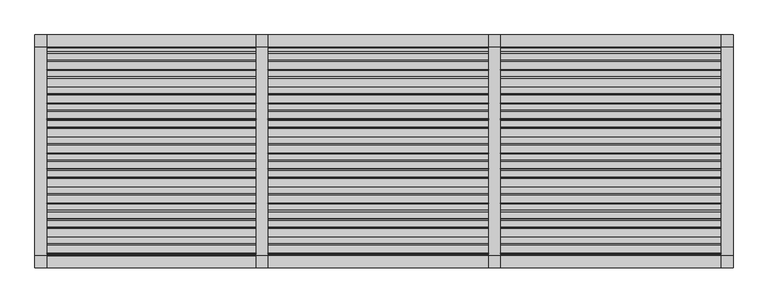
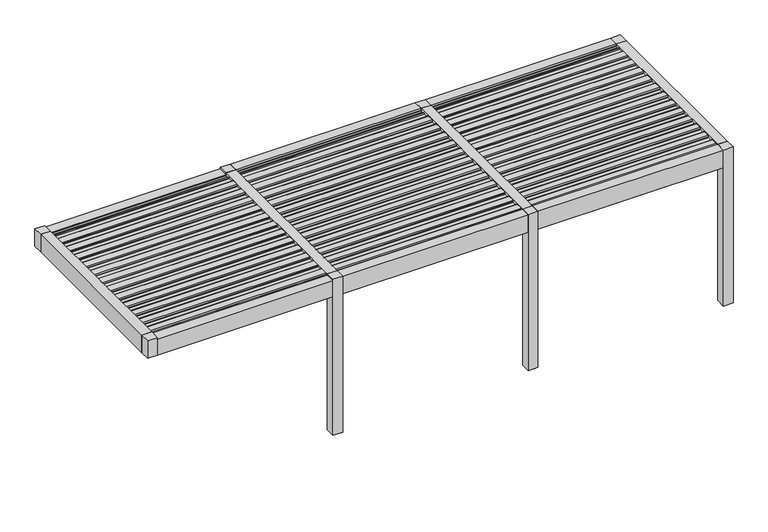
"""IFC4 building model written with IfcOpenShell, lengths in millimetres: proxy geometry, Renson_Amani_Patio_Cover : Renson_Amani_Patio_Cover."""

from ifc_helpers import new_model, si_unit, point, frame, frame_2d, origin, origin_with_axes, place, context, project, spatial, polyline, circle_curve, trimmed, segment, composite_curve, outline, extrude, source, transform, mapped, element, save


def generic_models_89963777(model_context):
    return source(origin(), model_context, "Body", "SweptSolid", [
        extrude(outline(composite_curve([segment(polyline([(-1073.7289238, 2483.35), (-1076.1490335, 2511.01198), (-1104.984284, 2512.3970364), (-1101.5469529, 2531.8911096), (-991.549838, 2526.6075693)]), True, "CONTINUOUS"), segment(trimmed(circle_curve(frame_2d((-992.26951, 2511.6248435)), 15.0), [point((-991.549838, 2526.6075693))], [point((-977.4973937, 2514.2295662))], False, "CARTESIAN"), True, "CONTINUOUS"), segment(polyline([(-977.4973937, 2514.2295662), (-974.1067023, 2495.0), (-886.3709263, 2495.0), (-883.3594689, 2512.0788237), (-868.0824984, 2511.3450182), (-865.6332517, 2483.35), (-1073.7289238, 2483.35)]), True, "CONTINUOUS")], self_intersect=False)), frame((4500.0, 0.0, 0.0), z_axis=(1.0, 0.0, 0.0), x_axis=(0.0, 1.0, 0.0)), (0.0, 0.0, 1.0), 2850.0),
        extrude(outline(composite_curve([segment(polyline([(-858.7132078, 2483.35), (-861.1333174, 2511.01198), (-889.9685679, 2512.3970364), (-886.5312368, 2531.8911096), (-776.534122, 2526.6075693)]), True, "CONTINUOUS"), segment(trimmed(circle_curve(frame_2d((-777.2537939, 2511.6248435)), 15.0), [point((-776.534122, 2526.6075693))], [point((-762.4816776, 2514.2295662))], False, "CARTESIAN"), True, "CONTINUOUS"), segment(polyline([(-762.4816776, 2514.2295662), (-759.0909863, 2495.0), (-671.3552102, 2495.0), (-668.3437528, 2512.0788237), (-653.0667824, 2511.3450182), (-650.6175356, 2483.35), (-858.7132078, 2483.35)]), True, "CONTINUOUS")], self_intersect=False)), frame((4500.0, 0.0, 0.0), z_axis=(1.0, 0.0, 0.0), x_axis=(0.0, 1.0, 0.0)), (0.0, 0.0, 1.0), 2850.0),
        extrude(outline(composite_curve([segment(polyline([(-643.6974917, 2483.35), (-646.1176014, 2511.01198), (-674.9528519, 2512.3970364), (-671.5155208, 2531.8911096), (-561.5184059, 2526.6075693)]), True, "CONTINUOUS"), segment(trimmed(circle_curve(frame_2d((-562.2380779, 2511.6248435)), 15.0), [point((-561.5184059, 2526.6075693))], [point((-547.4659616, 2514.2295662))], False, "CARTESIAN"), True, "CONTINUOUS"), segment(polyline([(-547.4659616, 2514.2295662), (-544.0752702, 2495.0), (-456.3394942, 2495.0), (-453.3280368, 2512.0788237), (-438.0510663, 2511.3450182), (-435.6018196, 2483.35), (-643.6974917, 2483.35)]), True, "CONTINUOUS")], self_intersect=False)), frame((4500.0, 0.0, 0.0), z_axis=(1.0, 0.0, 0.0), x_axis=(0.0, 1.0, 0.0)), (0.0, 0.0, 1.0), 2850.0),
        extrude(outline(composite_curve([segment(polyline([(-428.6817757, 2483.35), (-431.1018854, 2511.01198), (-459.9371358, 2512.3970364), (-456.4998047, 2531.8911096), (-346.5026899, 2526.6075693)]), True, "CONTINUOUS"), segment(trimmed(circle_curve(frame_2d((-347.2223618, 2511.6248435)), 15.0), [point((-346.5026899, 2526.6075693))], [point((-332.4502455, 2514.2295662))], False, "CARTESIAN"), True, "CONTINUOUS"), segment(polyline([(-332.4502455, 2514.2295662), (-329.0595542, 2495.0), (-241.3237782, 2495.0), (-238.3123207, 2512.0788237), (-223.0353503, 2511.3450182), (-220.5861035, 2483.35), (-428.6817757, 2483.35)]), True, "CONTINUOUS")], self_intersect=False)), frame((4500.0, 0.0, 0.0), z_axis=(1.0, 0.0, 0.0), x_axis=(0.0, 1.0, 0.0)), (0.0, 0.0, 1.0), 2850.0),
        extrude(outline(composite_curve([segment(polyline([(-213.6660597, 2483.35), (-216.0861693, 2511.01198), (-244.9214198, 2512.3970364), (-241.4840887, 2531.8911096), (-131.4869738, 2526.6075693)]), True, "CONTINUOUS"), segment(trimmed(circle_curve(frame_2d((-132.2066458, 2511.6248435)), 15.0), [point((-131.4869738, 2526.6075693))], [point((-117.4345295, 2514.2295662))], False, "CARTESIAN"), True, "CONTINUOUS"), segment(polyline([(-117.4345295, 2514.2295662), (-114.0438381, 2495.0), (-26.3080621, 2495.0), (-23.2966047, 2512.0788237), (-8.0196342, 2511.3450182), (-5.5703875, 2483.35), (-213.6660597, 2483.35)]), True, "CONTINUOUS")], self_intersect=False)), frame((4500.0, 0.0, 0.0), z_axis=(1.0, 0.0, 0.0), x_axis=(0.0, 1.0, 0.0)), (0.0, 0.0, 1.0), 2850.0),
        extrude(outline(composite_curve([segment(polyline([(1.3496564, 2483.35), (-1.0704533, 2511.01198), (-29.9057037, 2512.3970364), (-26.4683726, 2531.8911096), (83.5287422, 2526.6075693)]), True, "CONTINUOUS"), segment(trimmed(circle_curve(frame_2d((82.8090703, 2511.6248435)), 15.0), [point((83.5287422, 2526.6075693))], [point((97.5811866, 2514.2295662))], False, "CARTESIAN"), True, "CONTINUOUS"), segment(polyline([(97.5811866, 2514.2295662), (100.9718779, 2495.0), (188.7076539, 2495.0), (191.7191114, 2512.0788237), (206.9960818, 2511.3450182), (209.4453286, 2483.35), (1.3496564, 2483.35)]), True, "CONTINUOUS")], self_intersect=False)), frame((4500.0, 0.0, 0.0), z_axis=(1.0, 0.0, 0.0), x_axis=(0.0, 1.0, 0.0)), (0.0, 0.0, 1.0), 2850.0),
        extrude(outline(composite_curve([segment(polyline([(216.3653724, 2483.35), (213.9452628, 2511.01198), (185.1100123, 2512.3970364), (188.5473434, 2531.8911096), (298.5444582, 2526.6075693)]), True, "CONTINUOUS"), segment(trimmed(circle_curve(frame_2d((297.8247863, 2511.6248435)), 15.0), [point((298.5444582, 2526.6075693))], [point((312.5969026, 2514.2295662))], False, "CARTESIAN"), True, "CONTINUOUS"), segment(polyline([(312.5969026, 2514.2295662), (315.987594, 2495.0), (403.72337, 2495.0), (406.7348274, 2512.0788237), (422.0117979, 2511.3450182), (424.4610446, 2483.35), (216.3653724, 2483.35)]), True, "CONTINUOUS")], self_intersect=False)), frame((4500.0, 0.0, 0.0), z_axis=(1.0, 0.0, 0.0), x_axis=(0.0, 1.0, 0.0)), (0.0, 0.0, 1.0), 2850.0),
        extrude(outline(composite_curve([segment(polyline([(431.3810885, 2483.35), (428.9609788, 2511.01198), (400.1257284, 2512.3970364), (403.5630594, 2531.8911096), (513.5601743, 2526.6075693)]), True, "CONTINUOUS"), segment(trimmed(circle_curve(frame_2d((512.8405024, 2511.6248435)), 15.0), [point((513.5601743, 2526.6075693))], [point((527.6126187, 2514.2295662))], False, "CARTESIAN"), True, "CONTINUOUS"), segment(polyline([(527.6126187, 2514.2295662), (531.00331, 2495.0), (618.739086, 2495.0), (621.7505434, 2512.0788237), (637.0275139, 2511.3450182), (639.4767606, 2483.35), (431.3810885, 2483.35)]), True, "CONTINUOUS")], self_intersect=False)), frame((4500.0, 0.0, 0.0), z_axis=(1.0, 0.0, 0.0), x_axis=(0.0, 1.0, 0.0)), (0.0, 0.0, 1.0), 2850.0),
        extrude(outline(composite_curve([segment(polyline([(646.3968045, 2483.35), (643.9766949, 2511.01198), (615.1414444, 2512.3970364), (618.5787755, 2531.8911096), (728.5758903, 2526.6075693)]), True, "CONTINUOUS"), segment(trimmed(circle_curve(frame_2d((727.8562184, 2511.6248435)), 15.0), [point((728.5758903, 2526.6075693))], [point((742.6283347, 2514.2295662))], False, "CARTESIAN"), True, "CONTINUOUS"), segment(polyline([(742.6283347, 2514.2295662), (746.019026, 2495.0), (833.7548021, 2495.0), (836.7662595, 2512.0788237), (852.04323, 2511.3450182), (854.4924767, 2483.35), (646.3968045, 2483.35)]), True, "CONTINUOUS")], self_intersect=False)), frame((4500.0, 0.0, 0.0), z_axis=(1.0, 0.0, 0.0), x_axis=(0.0, 1.0, 0.0)), (0.0, 0.0, 1.0), 2850.0),
        extrude(outline(composite_curve([segment(polyline([(861.4125206, 2483.35), (858.9924109, 2511.01198), (830.1571605, 2512.3970364), (833.5944915, 2531.8911096), (943.5916064, 2526.6075693)]), True, "CONTINUOUS"), segment(trimmed(circle_curve(frame_2d((942.8719345, 2511.6248435)), 15.0), [point((943.5916064, 2526.6075693))], [point((957.6440508, 2514.2295662))], False, "CARTESIAN"), True, "CONTINUOUS"), segment(polyline([(957.6440508, 2514.2295662), (961.0347421, 2495.0), (1048.7705181, 2495.0), (1051.7819755, 2512.0788237), (1067.058946, 2511.3450182), (1069.5081927, 2483.35), (861.4125206, 2483.35)]), True, "CONTINUOUS")], self_intersect=False)), frame((4500.0, 0.0, 0.0), z_axis=(1.0, 0.0, 0.0), x_axis=(0.0, 1.0, 0.0)), (0.0, 0.0, 1.0), 2850.0),
        extrude(outline(composite_curve([segment(polyline([(-1288.7446399, 2483.35), (-1291.1647495, 2511.01198), (-1320.0, 2512.3970364), (-1316.5626689, 2531.8911096), (-1206.5655541, 2526.6075693)]), True, "CONTINUOUS"), segment(trimmed(circle_curve(frame_2d((-1207.285226, 2511.6248435)), 15.0), [point((-1206.5655541, 2526.6075693))], [point((-1192.5131097, 2514.2295662))], False, "CARTESIAN"), True, "CONTINUOUS"), segment(polyline([(-1192.5131097, 2514.2295662), (-1189.1224184, 2495.0), (-1101.3866423, 2495.0), (-1098.3751849, 2512.0788237), (-1083.0982144, 2511.3450182), (-1080.6489677, 2483.35), (-1288.7446399, 2483.35)]), True, "CONTINUOUS")], self_intersect=False)), frame((4500.0, 0.0, 0.0), z_axis=(1.0, 0.0, 0.0), x_axis=(0.0, 1.0, 0.0)), (0.0, 0.0, 1.0), 2850.0),
        extrude(outline(composite_curve([segment(polyline([(1076.4282366, 2483.35), (1074.008127, 2511.01198), (1045.1728765, 2512.3970364), (1048.6102076, 2531.8911096), (1158.6073224, 2526.6075693)]), True, "CONTINUOUS"), segment(trimmed(circle_curve(frame_2d((1157.8876505, 2511.6248435)), 15.0), [point((1158.6073224, 2526.6075693))], [point((1172.6597668, 2514.2295662))], False, "CARTESIAN"), True, "CONTINUOUS"), segment(polyline([(1172.6597668, 2514.2295662), (1176.0504581, 2495.0), (1263.7862342, 2495.0), (1266.7976916, 2512.0788237), (1282.0746621, 2511.3450182), (1284.5239088, 2483.35), (1076.4282366, 2483.35)]), True, "CONTINUOUS")], self_intersect=False)), frame((4500.0, 0.0, 0.0), z_axis=(1.0, 0.0, 0.0), x_axis=(0.0, 1.0, 0.0)), (0.0, 0.0, 1.0), 2850.0),
        extrude(outline(composite_curve([segment(polyline([(-1073.7289238, 2483.35), (-1076.1490335, 2511.01198), (-1104.984284, 2512.3970364), (-1101.5469529, 2531.8911096), (-991.549838, 2526.6075693)]), True, "CONTINUOUS"), segment(trimmed(circle_curve(frame_2d((-992.26951, 2511.6248435)), 15.0), [point((-991.549838, 2526.6075693))], [point((-977.4973937, 2514.2295662))], False, "CARTESIAN"), True, "CONTINUOUS"), segment(polyline([(-977.4973937, 2514.2295662), (-974.1067023, 2495.0), (-886.3709263, 2495.0), (-883.3594689, 2512.0788237), (-868.0824984, 2511.3450182), (-865.6332517, 2483.35), (-1073.7289238, 2483.35)]), True, "CONTINUOUS")], self_intersect=False)), frame((1500.0, 0.0, 0.0), z_axis=(1.0, 0.0, 0.0), x_axis=(0.0, 1.0, 0.0)), (0.0, 0.0, 1.0), 2850.0),
        extrude(outline(composite_curve([segment(polyline([(-858.7132078, 2483.35), (-861.1333174, 2511.01198), (-889.9685679, 2512.3970364), (-886.5312368, 2531.8911096), (-776.534122, 2526.6075693)]), True, "CONTINUOUS"), segment(trimmed(circle_curve(frame_2d((-777.2537939, 2511.6248435)), 15.0), [point((-776.534122, 2526.6075693))], [point((-762.4816776, 2514.2295662))], False, "CARTESIAN"), True, "CONTINUOUS"), segment(polyline([(-762.4816776, 2514.2295662), (-759.0909863, 2495.0), (-671.3552102, 2495.0), (-668.3437528, 2512.0788237), (-653.0667824, 2511.3450182), (-650.6175356, 2483.35), (-858.7132078, 2483.35)]), True, "CONTINUOUS")], self_intersect=False)), frame((1500.0, 0.0, 0.0), z_axis=(1.0, 0.0, 0.0), x_axis=(0.0, 1.0, 0.0)), (0.0, 0.0, 1.0), 2850.0),
        extrude(outline(composite_curve([segment(polyline([(-643.6974917, 2483.35), (-646.1176014, 2511.01198), (-674.9528519, 2512.3970364), (-671.5155208, 2531.8911096), (-561.5184059, 2526.6075693)]), True, "CONTINUOUS"), segment(trimmed(circle_curve(frame_2d((-562.2380779, 2511.6248435)), 15.0), [point((-561.5184059, 2526.6075693))], [point((-547.4659616, 2514.2295662))], False, "CARTESIAN"), True, "CONTINUOUS"), segment(polyline([(-547.4659616, 2514.2295662), (-544.0752702, 2495.0), (-456.3394942, 2495.0), (-453.3280368, 2512.0788237), (-438.0510663, 2511.3450182), (-435.6018196, 2483.35), (-643.6974917, 2483.35)]), True, "CONTINUOUS")], self_intersect=False)), frame((1500.0, 0.0, 0.0), z_axis=(1.0, 0.0, 0.0), x_axis=(0.0, 1.0, 0.0)), (0.0, 0.0, 1.0), 2850.0),
        extrude(outline(composite_curve([segment(polyline([(-428.6817757, 2483.35), (-431.1018854, 2511.01198), (-459.9371358, 2512.3970364), (-456.4998047, 2531.8911096), (-346.5026899, 2526.6075693)]), True, "CONTINUOUS"), segment(trimmed(circle_curve(frame_2d((-347.2223618, 2511.6248435)), 15.0), [point((-346.5026899, 2526.6075693))], [point((-332.4502455, 2514.2295662))], False, "CARTESIAN"), True, "CONTINUOUS"), segment(polyline([(-332.4502455, 2514.2295662), (-329.0595542, 2495.0), (-241.3237782, 2495.0), (-238.3123207, 2512.0788237), (-223.0353503, 2511.3450182), (-220.5861035, 2483.35), (-428.6817757, 2483.35)]), True, "CONTINUOUS")], self_intersect=False)), frame((1500.0, 0.0, 0.0), z_axis=(1.0, 0.0, 0.0), x_axis=(0.0, 1.0, 0.0)), (0.0, 0.0, 1.0), 2850.0),
        extrude(outline(composite_curve([segment(polyline([(-213.6660597, 2483.35), (-216.0861693, 2511.01198), (-244.9214198, 2512.3970364), (-241.4840887, 2531.8911096), (-131.4869738, 2526.6075693)]), True, "CONTINUOUS"), segment(trimmed(circle_curve(frame_2d((-132.2066458, 2511.6248435)), 15.0), [point((-131.4869738, 2526.6075693))], [point((-117.4345295, 2514.2295662))], False, "CARTESIAN"), True, "CONTINUOUS"), segment(polyline([(-117.4345295, 2514.2295662), (-114.0438381, 2495.0), (-26.3080621, 2495.0), (-23.2966047, 2512.0788237), (-8.0196342, 2511.3450182), (-5.5703875, 2483.35), (-213.6660597, 2483.35)]), True, "CONTINUOUS")], self_intersect=False)), frame((1500.0, 0.0, 0.0), z_axis=(1.0, 0.0, 0.0), x_axis=(0.0, 1.0, 0.0)), (0.0, 0.0, 1.0), 2850.0),
        extrude(outline(composite_curve([segment(polyline([(1.3496564, 2483.35), (-1.0704533, 2511.01198), (-29.9057037, 2512.3970364), (-26.4683726, 2531.8911096), (83.5287422, 2526.6075693)]), True, "CONTINUOUS"), segment(trimmed(circle_curve(frame_2d((82.8090703, 2511.6248435)), 15.0), [point((83.5287422, 2526.6075693))], [point((97.5811866, 2514.2295662))], False, "CARTESIAN"), True, "CONTINUOUS"), segment(polyline([(97.5811866, 2514.2295662), (100.9718779, 2495.0), (188.7076539, 2495.0), (191.7191114, 2512.0788237), (206.9960818, 2511.3450182), (209.4453286, 2483.35), (1.3496564, 2483.35)]), True, "CONTINUOUS")], self_intersect=False)), frame((1500.0, 0.0, 0.0), z_axis=(1.0, 0.0, 0.0), x_axis=(0.0, 1.0, 0.0)), (0.0, 0.0, 1.0), 2850.0),
        extrude(outline(composite_curve([segment(polyline([(216.3653724, 2483.35), (213.9452628, 2511.01198), (185.1100123, 2512.3970364), (188.5473434, 2531.8911096), (298.5444582, 2526.6075693)]), True, "CONTINUOUS"), segment(trimmed(circle_curve(frame_2d((297.8247863, 2511.6248435)), 15.0), [point((298.5444582, 2526.6075693))], [point((312.5969026, 2514.2295662))], False, "CARTESIAN"), True, "CONTINUOUS"), segment(polyline([(312.5969026, 2514.2295662), (315.987594, 2495.0), (403.72337, 2495.0), (406.7348274, 2512.0788237), (422.0117979, 2511.3450182), (424.4610446, 2483.35), (216.3653724, 2483.35)]), True, "CONTINUOUS")], self_intersect=False)), frame((1500.0, 0.0, 0.0), z_axis=(1.0, 0.0, 0.0), x_axis=(0.0, 1.0, 0.0)), (0.0, 0.0, 1.0), 2850.0),
        extrude(outline(composite_curve([segment(polyline([(431.3810885, 2483.35), (428.9609788, 2511.01198), (400.1257284, 2512.3970364), (403.5630594, 2531.8911096), (513.5601743, 2526.6075693)]), True, "CONTINUOUS"), segment(trimmed(circle_curve(frame_2d((512.8405024, 2511.6248435)), 15.0), [point((513.5601743, 2526.6075693))], [point((527.6126187, 2514.2295662))], False, "CARTESIAN"), True, "CONTINUOUS"), segment(polyline([(527.6126187, 2514.2295662), (531.00331, 2495.0), (618.739086, 2495.0), (621.7505434, 2512.0788237), (637.0275139, 2511.3450182), (639.4767606, 2483.35), (431.3810885, 2483.35)]), True, "CONTINUOUS")], self_intersect=False)), frame((1500.0, 0.0, 0.0), z_axis=(1.0, 0.0, 0.0), x_axis=(0.0, 1.0, 0.0)), (0.0, 0.0, 1.0), 2850.0),
        extrude(outline(composite_curve([segment(polyline([(646.3968045, 2483.35), (643.9766949, 2511.01198), (615.1414444, 2512.3970364), (618.5787755, 2531.8911096), (728.5758903, 2526.6075693)]), True, "CONTINUOUS"), segment(trimmed(circle_curve(frame_2d((727.8562184, 2511.6248435)), 15.0), [point((728.5758903, 2526.6075693))], [point((742.6283347, 2514.2295662))], False, "CARTESIAN"), True, "CONTINUOUS"), segment(polyline([(742.6283347, 2514.2295662), (746.019026, 2495.0), (833.7548021, 2495.0), (836.7662595, 2512.0788237), (852.04323, 2511.3450182), (854.4924767, 2483.35), (646.3968045, 2483.35)]), True, "CONTINUOUS")], self_intersect=False)), frame((1500.0, 0.0, 0.0), z_axis=(1.0, 0.0, 0.0), x_axis=(0.0, 1.0, 0.0)), (0.0, 0.0, 1.0), 2850.0),
        extrude(outline(composite_curve([segment(polyline([(861.4125206, 2483.35), (858.9924109, 2511.01198), (830.1571605, 2512.3970364), (833.5944915, 2531.8911096), (943.5916064, 2526.6075693)]), True, "CONTINUOUS"), segment(trimmed(circle_curve(frame_2d((942.8719345, 2511.6248435)), 15.0), [point((943.5916064, 2526.6075693))], [point((957.6440508, 2514.2295662))], False, "CARTESIAN"), True, "CONTINUOUS"), segment(polyline([(957.6440508, 2514.2295662), (961.0347421, 2495.0), (1048.7705181, 2495.0), (1051.7819755, 2512.0788237), (1067.058946, 2511.3450182), (1069.5081927, 2483.35), (861.4125206, 2483.35)]), True, "CONTINUOUS")], self_intersect=False)), frame((1500.0, 0.0, 0.0), z_axis=(1.0, 0.0, 0.0), x_axis=(0.0, 1.0, 0.0)), (0.0, 0.0, 1.0), 2850.0),
        extrude(outline(composite_curve([segment(polyline([(-1288.7446399, 2483.35), (-1291.1647495, 2511.01198), (-1320.0, 2512.3970364), (-1316.5626689, 2531.8911096), (-1206.5655541, 2526.6075693)]), True, "CONTINUOUS"), segment(trimmed(circle_curve(frame_2d((-1207.285226, 2511.6248435)), 15.0), [point((-1206.5655541, 2526.6075693))], [point((-1192.5131097, 2514.2295662))], False, "CARTESIAN"), True, "CONTINUOUS"), segment(polyline([(-1192.5131097, 2514.2295662), (-1189.1224184, 2495.0), (-1101.3866423, 2495.0), (-1098.3751849, 2512.0788237), (-1083.0982144, 2511.3450182), (-1080.6489677, 2483.35), (-1288.7446399, 2483.35)]), True, "CONTINUOUS")], self_intersect=False)), frame((1500.0, 0.0, 0.0), z_axis=(1.0, 0.0, 0.0), x_axis=(0.0, 1.0, 0.0)), (0.0, 0.0, 1.0), 2850.0),
        extrude(outline(composite_curve([segment(polyline([(1076.4282366, 2483.35), (1074.008127, 2511.01198), (1045.1728765, 2512.3970364), (1048.6102076, 2531.8911096), (1158.6073224, 2526.6075693)]), True, "CONTINUOUS"), segment(trimmed(circle_curve(frame_2d((1157.8876505, 2511.6248435)), 15.0), [point((1158.6073224, 2526.6075693))], [point((1172.6597668, 2514.2295662))], False, "CARTESIAN"), True, "CONTINUOUS"), segment(polyline([(1172.6597668, 2514.2295662), (1176.0504581, 2495.0), (1263.7862342, 2495.0), (1266.7976916, 2512.0788237), (1282.0746621, 2511.3450182), (1284.5239088, 2483.35), (1076.4282366, 2483.35)]), True, "CONTINUOUS")], self_intersect=False)), frame((1500.0, 0.0, 0.0), z_axis=(1.0, 0.0, 0.0), x_axis=(0.0, 1.0, 0.0)), (0.0, 0.0, 1.0), 2850.0),
        extrude(outline(composite_curve([segment(polyline([(-1073.7289238, 2483.35), (-1076.1490335, 2511.01198), (-1104.984284, 2512.3970364), (-1101.5469529, 2531.8911096), (-991.549838, 2526.6075693)]), True, "CONTINUOUS"), segment(trimmed(circle_curve(frame_2d((-992.26951, 2511.6248435)), 15.0), [point((-991.549838, 2526.6075693))], [point((-977.4973937, 2514.2295662))], False, "CARTESIAN"), True, "CONTINUOUS"), segment(polyline([(-977.4973937, 2514.2295662), (-974.1067023, 2495.0), (-886.3709263, 2495.0), (-883.3594689, 2512.0788237), (-868.0824984, 2511.3450182), (-865.6332517, 2483.35), (-1073.7289238, 2483.35)]), True, "CONTINUOUS")], self_intersect=False)), frame((-1350.0, 0.0, 0.0), z_axis=(1.0, 0.0, 0.0), x_axis=(0.0, 1.0, 0.0)), (0.0, 0.0, 1.0), 2700.0),
        extrude(outline(composite_curve([segment(polyline([(-858.7132078, 2483.35), (-861.1333174, 2511.01198), (-889.9685679, 2512.3970364), (-886.5312368, 2531.8911096), (-776.534122, 2526.6075693)]), True, "CONTINUOUS"), segment(trimmed(circle_curve(frame_2d((-777.2537939, 2511.6248435)), 15.0), [point((-776.534122, 2526.6075693))], [point((-762.4816776, 2514.2295662))], False, "CARTESIAN"), True, "CONTINUOUS"), segment(polyline([(-762.4816776, 2514.2295662), (-759.0909863, 2495.0), (-671.3552102, 2495.0), (-668.3437528, 2512.0788237), (-653.0667824, 2511.3450182), (-650.6175356, 2483.35), (-858.7132078, 2483.35)]), True, "CONTINUOUS")], self_intersect=False)), frame((-1350.0, 0.0, 0.0), z_axis=(1.0, 0.0, 0.0), x_axis=(0.0, 1.0, 0.0)), (0.0, 0.0, 1.0), 2700.0),
        extrude(outline(composite_curve([segment(polyline([(-643.6974917, 2483.35), (-646.1176014, 2511.01198), (-674.9528519, 2512.3970364), (-671.5155208, 2531.8911096), (-561.5184059, 2526.6075693)]), True, "CONTINUOUS"), segment(trimmed(circle_curve(frame_2d((-562.2380779, 2511.6248435)), 15.0), [point((-561.5184059, 2526.6075693))], [point((-547.4659616, 2514.2295662))], False, "CARTESIAN"), True, "CONTINUOUS"), segment(polyline([(-547.4659616, 2514.2295662), (-544.0752702, 2495.0), (-456.3394942, 2495.0), (-453.3280368, 2512.0788237), (-438.0510663, 2511.3450182), (-435.6018196, 2483.35), (-643.6974917, 2483.35)]), True, "CONTINUOUS")], self_intersect=False)), frame((-1350.0, 0.0, 0.0), z_axis=(1.0, 0.0, 0.0), x_axis=(0.0, 1.0, 0.0)), (0.0, 0.0, 1.0), 2700.0),
        extrude(outline(composite_curve([segment(polyline([(-428.6817757, 2483.35), (-431.1018854, 2511.01198), (-459.9371358, 2512.3970364), (-456.4998047, 2531.8911096), (-346.5026899, 2526.6075693)]), True, "CONTINUOUS"), segment(trimmed(circle_curve(frame_2d((-347.2223618, 2511.6248435)), 15.0), [point((-346.5026899, 2526.6075693))], [point((-332.4502455, 2514.2295662))], False, "CARTESIAN"), True, "CONTINUOUS"), segment(polyline([(-332.4502455, 2514.2295662), (-329.0595542, 2495.0), (-241.3237782, 2495.0), (-238.3123207, 2512.0788237), (-223.0353503, 2511.3450182), (-220.5861035, 2483.35), (-428.6817757, 2483.35)]), True, "CONTINUOUS")], self_intersect=False)), frame((-1350.0, 0.0, 0.0), z_axis=(1.0, 0.0, 0.0), x_axis=(0.0, 1.0, 0.0)), (0.0, 0.0, 1.0), 2700.0),
        extrude(outline(composite_curve([segment(polyline([(-213.6660597, 2483.35), (-216.0861693, 2511.01198), (-244.9214198, 2512.3970364), (-241.4840887, 2531.8911096), (-131.4869738, 2526.6075693)]), True, "CONTINUOUS"), segment(trimmed(circle_curve(frame_2d((-132.2066458, 2511.6248435)), 15.0), [point((-131.4869738, 2526.6075693))], [point((-117.4345295, 2514.2295662))], False, "CARTESIAN"), True, "CONTINUOUS"), segment(polyline([(-117.4345295, 2514.2295662), (-114.0438381, 2495.0), (-26.3080621, 2495.0), (-23.2966047, 2512.0788237), (-8.0196342, 2511.3450182), (-5.5703875, 2483.35), (-213.6660597, 2483.35)]), True, "CONTINUOUS")], self_intersect=False)), frame((-1350.0, 0.0, 0.0), z_axis=(1.0, 0.0, 0.0), x_axis=(0.0, 1.0, 0.0)), (0.0, 0.0, 1.0), 2700.0),
        extrude(outline(composite_curve([segment(polyline([(1.3496564, 2483.35), (-1.0704533, 2511.01198), (-29.9057037, 2512.3970364), (-26.4683726, 2531.8911096), (83.5287422, 2526.6075693)]), True, "CONTINUOUS"), segment(trimmed(circle_curve(frame_2d((82.8090703, 2511.6248435)), 15.0), [point((83.5287422, 2526.6075693))], [point((97.5811866, 2514.2295662))], False, "CARTESIAN"), True, "CONTINUOUS"), segment(polyline([(97.5811866, 2514.2295662), (100.9718779, 2495.0), (188.7076539, 2495.0), (191.7191114, 2512.0788237), (206.9960818, 2511.3450182), (209.4453286, 2483.35), (1.3496564, 2483.35)]), True, "CONTINUOUS")], self_intersect=False)), frame((-1350.0, 0.0, 0.0), z_axis=(1.0, 0.0, 0.0), x_axis=(0.0, 1.0, 0.0)), (0.0, 0.0, 1.0), 2700.0),
        extrude(outline(composite_curve([segment(polyline([(216.3653724, 2483.35), (213.9452628, 2511.01198), (185.1100123, 2512.3970364), (188.5473434, 2531.8911096), (298.5444582, 2526.6075693)]), True, "CONTINUOUS"), segment(trimmed(circle_curve(frame_2d((297.8247863, 2511.6248435)), 15.0), [point((298.5444582, 2526.6075693))], [point((312.5969026, 2514.2295662))], False, "CARTESIAN"), True, "CONTINUOUS"), segment(polyline([(312.5969026, 2514.2295662), (315.987594, 2495.0), (403.72337, 2495.0), (406.7348274, 2512.0788237), (422.0117979, 2511.3450182), (424.4610446, 2483.35), (216.3653724, 2483.35)]), True, "CONTINUOUS")], self_intersect=False)), frame((-1350.0, 0.0, 0.0), z_axis=(1.0, 0.0, 0.0), x_axis=(0.0, 1.0, 0.0)), (0.0, 0.0, 1.0), 2700.0),
        extrude(outline(composite_curve([segment(polyline([(431.3810885, 2483.35), (428.9609788, 2511.01198), (400.1257284, 2512.3970364), (403.5630594, 2531.8911096), (513.5601743, 2526.6075693)]), True, "CONTINUOUS"), segment(trimmed(circle_curve(frame_2d((512.8405024, 2511.6248435)), 15.0), [point((513.5601743, 2526.6075693))], [point((527.6126187, 2514.2295662))], False, "CARTESIAN"), True, "CONTINUOUS"), segment(polyline([(527.6126187, 2514.2295662), (531.00331, 2495.0), (618.739086, 2495.0), (621.7505434, 2512.0788237), (637.0275139, 2511.3450182), (639.4767606, 2483.35), (431.3810885, 2483.35)]), True, "CONTINUOUS")], self_intersect=False)), frame((-1350.0, 0.0, 0.0), z_axis=(1.0, 0.0, 0.0), x_axis=(0.0, 1.0, 0.0)), (0.0, 0.0, 1.0), 2700.0),
        extrude(outline(composite_curve([segment(polyline([(646.3968045, 2483.35), (643.9766949, 2511.01198), (615.1414444, 2512.3970364), (618.5787755, 2531.8911096), (728.5758903, 2526.6075693)]), True, "CONTINUOUS"), segment(trimmed(circle_curve(frame_2d((727.8562184, 2511.6248435)), 15.0), [point((728.5758903, 2526.6075693))], [point((742.6283347, 2514.2295662))], False, "CARTESIAN"), True, "CONTINUOUS"), segment(polyline([(742.6283347, 2514.2295662), (746.019026, 2495.0), (833.7548021, 2495.0), (836.7662595, 2512.0788237), (852.04323, 2511.3450182), (854.4924767, 2483.35), (646.3968045, 2483.35)]), True, "CONTINUOUS")], self_intersect=False)), frame((-1350.0, 0.0, 0.0), z_axis=(1.0, 0.0, 0.0), x_axis=(0.0, 1.0, 0.0)), (0.0, 0.0, 1.0), 2700.0),
        extrude(outline(composite_curve([segment(polyline([(861.4125206, 2483.35), (858.9924109, 2511.01198), (830.1571605, 2512.3970364), (833.5944915, 2531.8911096), (943.5916064, 2526.6075693)]), True, "CONTINUOUS"), segment(trimmed(circle_curve(frame_2d((942.8719345, 2511.6248435)), 15.0), [point((943.5916064, 2526.6075693))], [point((957.6440508, 2514.2295662))], False, "CARTESIAN"), True, "CONTINUOUS"), segment(polyline([(957.6440508, 2514.2295662), (961.0347421, 2495.0), (1048.7705181, 2495.0), (1051.7819755, 2512.0788237), (1067.058946, 2511.3450182), (1069.5081927, 2483.35), (861.4125206, 2483.35)]), True, "CONTINUOUS")], self_intersect=False)), frame((-1350.0, 0.0, 0.0), z_axis=(1.0, 0.0, 0.0), x_axis=(0.0, 1.0, 0.0)), (0.0, 0.0, 1.0), 2700.0),
        extrude(outline(composite_curve([segment(polyline([(-1288.7446399, 2483.35), (-1291.1647495, 2511.01198), (-1320.0, 2512.3970364), (-1316.5626689, 2531.8911096), (-1206.5655541, 2526.6075693)]), True, "CONTINUOUS"), segment(trimmed(circle_curve(frame_2d((-1207.285226, 2511.6248435)), 15.0), [point((-1206.5655541, 2526.6075693))], [point((-1192.5131097, 2514.2295662))], False, "CARTESIAN"), True, "CONTINUOUS"), segment(polyline([(-1192.5131097, 2514.2295662), (-1189.1224184, 2495.0), (-1101.3866423, 2495.0), (-1098.3751849, 2512.0788237), (-1083.0982144, 2511.3450182), (-1080.6489677, 2483.35), (-1288.7446399, 2483.35)]), True, "CONTINUOUS")], self_intersect=False)), frame((-1350.0, 0.0, 0.0), z_axis=(1.0, 0.0, 0.0), x_axis=(0.0, 1.0, 0.0)), (0.0, 0.0, 1.0), 2700.0),
        extrude(outline(composite_curve([segment(polyline([(1076.4282366, 2483.35), (1074.008127, 2511.01198), (1045.1728765, 2512.3970364), (1048.6102076, 2531.8911096), (1158.6073224, 2526.6075693)]), True, "CONTINUOUS"), segment(trimmed(circle_curve(frame_2d((1157.8876505, 2511.6248435)), 15.0), [point((1158.6073224, 2526.6075693))], [point((1172.6597668, 2514.2295662))], False, "CARTESIAN"), True, "CONTINUOUS"), segment(polyline([(1172.6597668, 2514.2295662), (1176.0504581, 2495.0), (1263.7862342, 2495.0), (1266.7976916, 2512.0788237), (1282.0746621, 2511.3450182), (1284.5239088, 2483.35), (1076.4282366, 2483.35)]), True, "CONTINUOUS")], self_intersect=False)), frame((-1350.0, 0.0, 0.0), z_axis=(1.0, 0.0, 0.0), x_axis=(0.0, 1.0, 0.0)), (0.0, 0.0, 1.0), 2700.0),
        extrude(outline(polyline([(7500.0, -1350.0), (7500.0, -1500.0), (7350.0, -1500.0), (7350.0, -1350.0), (7500.0, -1350.0)])), origin_with_axes(), (0.0, 0.0, 1.0), 2535.0),
        extrude(outline(polyline([(7500.0, 1500.0), (7500.0, 1350.0), (7350.0, 1350.0), (7350.0, 1500.0), (7500.0, 1500.0)])), origin_with_axes(), (0.0, 0.0, 1.0), 2535.0),
        extrude(outline(polyline([(4500.0, 1500.0), (4500.0, 1350.0), (4350.0, 1350.0), (4350.0, 1500.0), (4500.0, 1500.0)])), origin_with_axes(), (0.0, 0.0, 1.0), 2535.0),
        extrude(outline(polyline([(-1350.0, 1500.0), (-1350.0, 1350.0), (-1500.0, 1350.0), (-1500.0, 1500.0), (-1350.0, 1500.0)])), frame((0.0, 0.0, 2250.0), z_axis=(0.0, 0.0, 1.0), x_axis=(1.0, 0.0, 0.0)), (0.0, 0.0, 1.0), 285.0),
        extrude(outline(polyline([(-1350.0, -1500.0), (-1500.0, -1500.0), (-1500.0, -1350.0), (-1350.0, -1350.0), (-1350.0, -1500.0)])), frame((0.0, 0.0, 2250.0), z_axis=(0.0, 0.0, 1.0), x_axis=(1.0, 0.0, 0.0)), (0.0, 0.0, 1.0), 285.0),
        extrude(outline(polyline([(4500.0, -1350.0), (4500.0, -1500.0), (4350.0, -1500.0), (4350.0, -1350.0), (4500.0, -1350.0)])), origin_with_axes(), (0.0, 0.0, 1.0), 2535.0),
        extrude(outline(polyline([(1500.0, -1350.0), (1500.0, -1500.0), (1350.0, -1500.0), (1350.0, -1350.0), (1500.0, -1350.0)])), origin_with_axes(), (0.0, 0.0, 1.0), 2535.0),
        extrude(outline(polyline([(1500.0, 1500.0), (1500.0, 1350.0), (1350.0, 1350.0), (1350.0, 1500.0), (1500.0, 1500.0)])), origin_with_axes(), (0.0, 0.0, 1.0), 2535.0),
        extrude(outline(polyline([(1350.0, 2466.6559373), (1290.0, 2466.6559373), (1286.2487113, 2480.6555802), (1329.5940945, 2480.6555802), (1345.0, 2496.400763), (1345.0, 2504.2449277), (1350.0, 2504.6823598), (1350.0, 2466.6559373)])), frame((4500.0, 0.0, 0.0), z_axis=(1.0, 0.0, 0.0), x_axis=(0.0, 1.0, 0.0)), (0.0, 0.0, 1.0), 2850.0),
        extrude(outline(polyline([(-1350.0, 2504.6823598), (-1345.0, 2504.2449277), (-1345.0, 2496.400763), (-1329.2544156, 2480.6555802), (-1319.9090324, 2480.6555802), (-1323.6603211, 2466.6559373), (-1350.0, 2466.6559373), (-1350.0, 2250.0), (-1500.0, 2250.0), (-1500.0, 2535.0), (-1350.0, 2535.0), (-1350.0, 2504.6823598)])), frame((4500.0, 0.0, 0.0), z_axis=(1.0, 0.0, 0.0), x_axis=(0.0, 1.0, 0.0)), (0.0, 0.0, 1.0), 2850.0),
        extrude(outline(polyline([(7350.0, 1500.0), (7350.0, 1350.0), (4500.0, 1350.0), (4500.0, 1500.0), (7350.0, 1500.0)])), frame((0.0, 0.0, 2250.0), z_axis=(0.0, 0.0, 1.0), x_axis=(1.0, 0.0, 0.0)), (0.0, 0.0, 1.0), 285.0),
        extrude(outline(polyline([(2535.0, 4350.0), (2322.0, 4350.0), (2322.0, 4280.0000001), (2250.0, 4280.0000001), (2250.0, 4569.9999999), (2322.0, 4569.9999999), (2322.0, 4500.0), (2535.0, 4500.0), (2535.0, 4350.0)])), frame((0.0, -1350.0, 0.0), z_axis=(0.0, 1.0, 0.0), x_axis=(0.0, 0.0, 1.0)), (0.0, 0.0, 1.0), 2700.0),
        extrude(outline(polyline([(2535.0, 7350.0), (2322.0, 7350.0), (2322.0, 7280.0000001), (2250.0, 7280.0000001), (2250.0, 7500.0), (2535.0, 7500.0), (2535.0, 7350.0)])), frame((0.0, -1350.0, 0.0), z_axis=(0.0, 1.0, 0.0), x_axis=(0.0, 0.0, 1.0)), (0.0, 0.0, 1.0), 2700.0),
        extrude(outline(polyline([(1350.0, 2466.6559373), (1290.0, 2466.6559373), (1286.2487113, 2480.6555802), (1329.5940945, 2480.6555802), (1345.0, 2496.400763), (1345.0, 2504.2449277), (1350.0, 2504.6823598), (1350.0, 2466.6559373)])), frame((1500.0, 0.0, 0.0), z_axis=(1.0, 0.0, 0.0), x_axis=(0.0, 1.0, 0.0)), (0.0, 0.0, 1.0), 2850.0),
        extrude(outline(polyline([(4350.0, 1500.0), (4350.0, 1350.0), (1500.0, 1350.0), (1500.0, 1500.0), (4350.0, 1500.0)])), frame((0.0, 0.0, 2250.0), z_axis=(0.0, 0.0, 1.0), x_axis=(1.0, 0.0, 0.0)), (0.0, 0.0, 1.0), 285.0),
        extrude(outline(polyline([(-1350.0, 2250.0), (-1500.0, 2250.0), (-1500.0, 2535.0), (-1350.0, 2535.0), (-1350.0, 2504.6823598), (-1345.0, 2504.2449277), (-1345.0, 2496.400763), (-1329.2544156, 2480.6555802), (-1319.9090324, 2480.6555802), (-1323.6603211, 2466.6559373), (-1350.0, 2466.6559373), (-1350.0, 2250.0)])), frame((1500.0, 0.0, 0.0), z_axis=(1.0, 0.0, 0.0), x_axis=(0.0, 1.0, 0.0)), (0.0, 0.0, 1.0), 2850.0),
        extrude(outline(polyline([(2535.0, 1350.0), (2322.0, 1350.0), (2322.0, 1280.0000001), (2250.0, 1280.0000001), (2250.0, 1569.9999999), (2322.0, 1569.9999999), (2322.0, 1500.0), (2535.0, 1500.0), (2535.0, 1350.0)])), frame((0.0, -1350.0, 0.0), z_axis=(0.0, 1.0, 0.0), x_axis=(0.0, 0.0, 1.0)), (0.0, 0.0, 1.0), 2700.0),
        extrude(outline(polyline([(2535.0, 4350.0), (2322.0, 4350.0), (2322.0, 4280.0000001), (2250.0, 4280.0000001), (2250.0, 4500.0), (2535.0, 4500.0), (2535.0, 4350.0)])), frame((0.0, -1350.0, 0.0), z_axis=(0.0, 1.0, 0.0), x_axis=(0.0, 0.0, 1.0)), (0.0, 0.0, 1.0), 2700.0),
        extrude(outline(polyline([(1350.0, 2466.6559373), (1290.0, 2466.6559373), (1286.2487113, 2480.6555802), (1329.5940945, 2480.6555802), (1345.0, 2496.400763), (1345.0, 2504.2449277), (1350.0, 2504.6823598), (1350.0, 2466.6559373)])), frame((-1350.0, 0.0, 0.0), z_axis=(1.0, 0.0, 0.0), x_axis=(0.0, 1.0, 0.0)), (0.0, 0.0, 1.0), 2700.0),
        extrude(outline(polyline([(-1350.0, 2510.0), (-1350.0, 2479.6823598), (-1345.0, 2479.2449277), (-1345.0, 2471.400763), (-1329.2544156, 2455.6555802), (-1319.9090324, 2455.6555802), (-1323.6603211, 2441.6559373), (-1350.0, 2441.6559373), (-1350.0, 2250.0), (-1500.0, 2250.0), (-1500.0, 2510.0), (-1350.0, 2510.0)])), frame((-1350.0, 0.0, 0.0), z_axis=(1.0, 0.0, 0.0), x_axis=(0.0, 1.0, 0.0)), (0.0, 0.0, 1.0), 2700.0),
        extrude(outline(polyline([(1350.0, 1500.0), (1350.0, 1350.0), (-1350.0, 1350.0), (-1350.0, 1500.0), (1350.0, 1500.0)])), frame((0.0, 0.0, 2250.0), z_axis=(0.0, 0.0, 1.0), x_axis=(1.0, 0.0, 0.0)), (0.0, 0.0, 1.0), 260.0),
        extrude(outline(polyline([(2535.0, -1350.0), (2535.0, -1500.0), (2250.0, -1500.0), (2250.0, -1280.0000001), (2322.0, -1280.0000001), (2322.0, -1350.0), (2535.0, -1350.0)])), frame((0.0, -1350.0, 0.0), z_axis=(0.0, 1.0, 0.0), x_axis=(0.0, 0.0, 1.0)), (0.0, 0.0, 1.0), 2700.0),
        extrude(outline(polyline([(2250.0, 1500.0), (2535.0, 1500.0), (2535.0, 1350.0), (2322.0, 1350.0), (2322.0, 1280.0000001), (2250.0, 1280.0000001), (2250.0, 1500.0)])), frame((0.0, -1350.0, 0.0), z_axis=(0.0, 1.0, 0.0), x_axis=(0.0, 0.0, 1.0)), (0.0, 0.0, 1.0), 2700.0),
    ])


if __name__ == "__main__":
    model = new_model("IFC4")
    model_context = context("Model", 3, world=origin())
    ifc_project = project(units=[si_unit("LENGTHUNIT", "METRE", prefix="MILLI")], contexts=[model_context])
    site = spatial("IfcSite", under=ifc_project)
    building = spatial("IfcBuilding", under=site)
    placement = place(None, origin())
    generic_models_shape = generic_models_89963777(model_context)
    element("IfcBuildingElementProxy", 1, Name="Renson_Amani_Patio_Cover : Renson_Amani_Patio_Cover", ObjectType="Renson_Amani_Patio_Cover : Renson_Amani_Patio_Cover", at=placement, inside=building, context=model_context, shape_type="MappedRepresentation", body=[
        mapped(generic_models_shape, transform((0.0, 0.0, 0.0), x_axis=(1.0, 0.0, 0.0), y_axis=(0.0, 1.0, 0.0), z_axis=(0.0, 0.0, 1.0))),
    ])
    save(model, "model.ifc")
